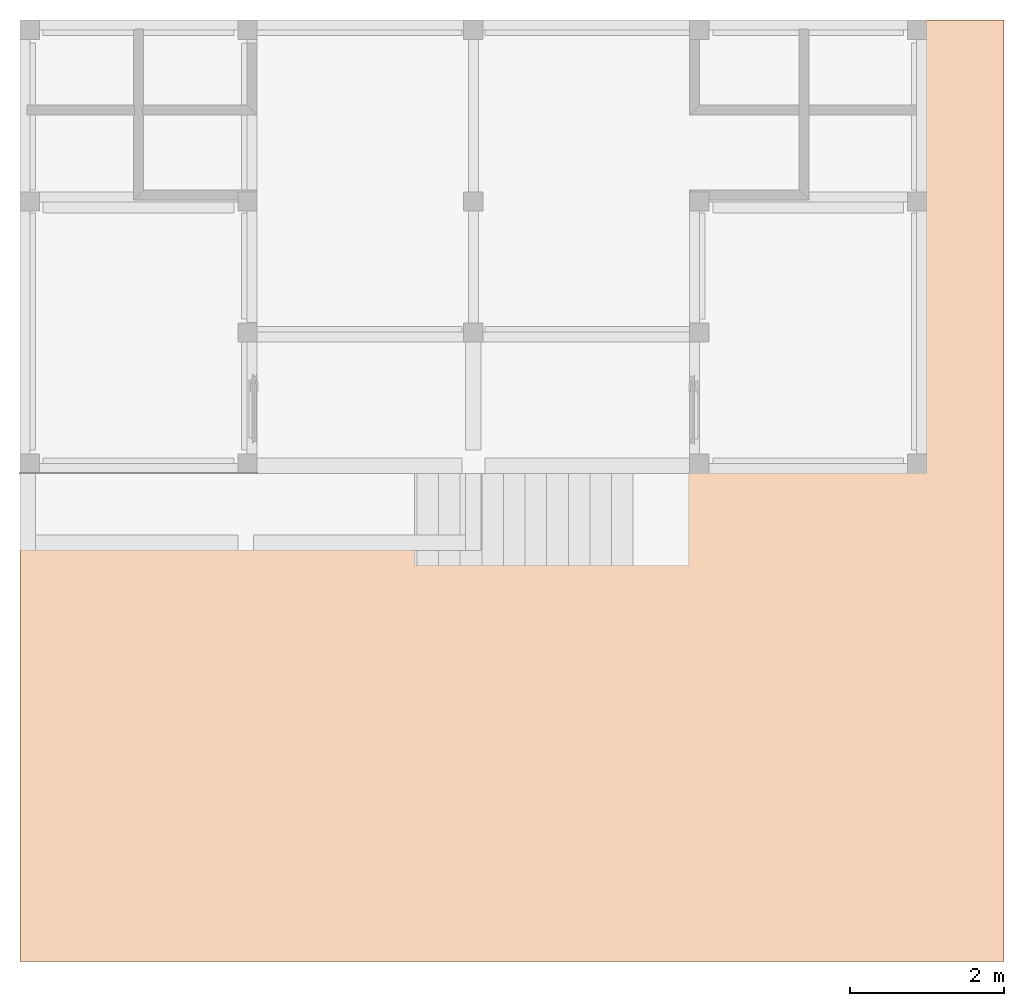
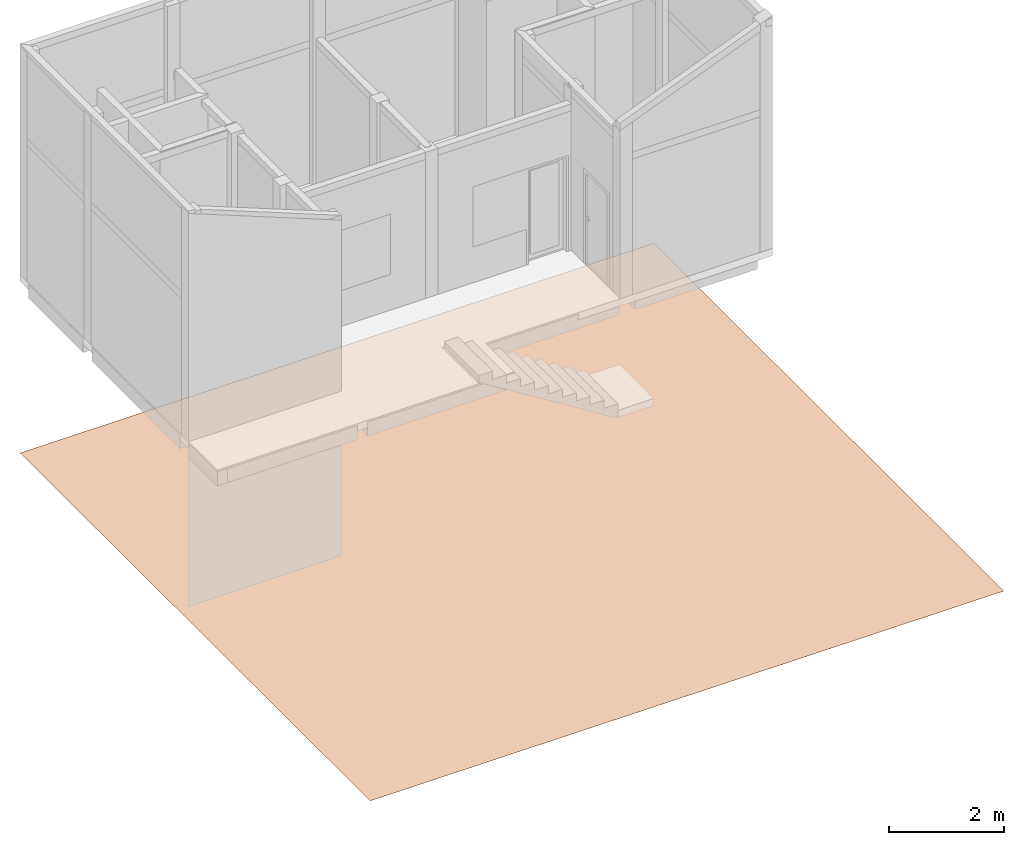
# One storey, part 8 of 8: 1 geographic element.
"""IFC4X3_ADD2 building model written with IfcOpenShell, lengths in millimetres."""

from ifc_helpers import new_model, entity, si_unit, converted_unit, frame, origin_with_axes, origin_2d_with_axis, place, context, subcontext, project, spatial, polygons, element, save


model = new_model("IFC4X3_ADD2")

# Units and contexts
model_context = context("Model", 3, precision=1e-05, world=origin_with_axes())
plan_context = context("Plan", 2, precision=1e-05, world=origin_2d_with_axis())
body_context = subcontext(model_context, "Body", "Model", "MODEL_VIEW")
ifc_project = project(units=[si_unit("VOLUMEUNIT", "CUBIC_METRE"), si_unit("LENGTHUNIT", "METRE", prefix="MILLI"), converted_unit("PLANEANGLEUNIT", "degree", entity("IfcReal", 0.0174532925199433), si_unit("PLANEANGLEUNIT", "RADIAN"), dimensions=[0, 0, 0, 0, 0, 0, 0]), si_unit("AREAUNIT", "SQUARE_METRE")], contexts=[model_context, plan_context])

# Site, building, storey
site_placement = place(None, origin_with_axes())
site = spatial("IfcSite", under=ifc_project, at=site_placement, Name="My Site")
building_placement = place(site_placement, origin_with_axes())
building = spatial("IfcBuilding", under=site, at=building_placement, Name="My Building")
storey_placement = place(building_placement, origin_with_axes())
storey = spatial("IfcBuildingStorey", under=building, at=storey_placement, Name="Lantai 2")

# Geographic element
geographic_element_placement = place(storey_placement, frame((11590.0001525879, -151.000007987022, -300.000011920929), z_axis=(0.0, 0.0, 1.0), x_axis=(1.0, 0.0, 0.0)))
element("IfcGeographicElement", 1, at=geographic_element_placement, inside=storey, Name="Plane", PredefinedType="TERRAIN", context=body_context, shape_type="Tessellation", body=[
    polygons([(-11739.9990234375, -6320.89013671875, 0.0), (999.999938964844, -6320.89013671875, 0.0), (-11739.9990234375, 5870.99951171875, 0.0), (999.999938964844, 5870.99951171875, 0.0)], [[[1, 2, 4, 3]]]),
])

save(model, "model.ifc")
